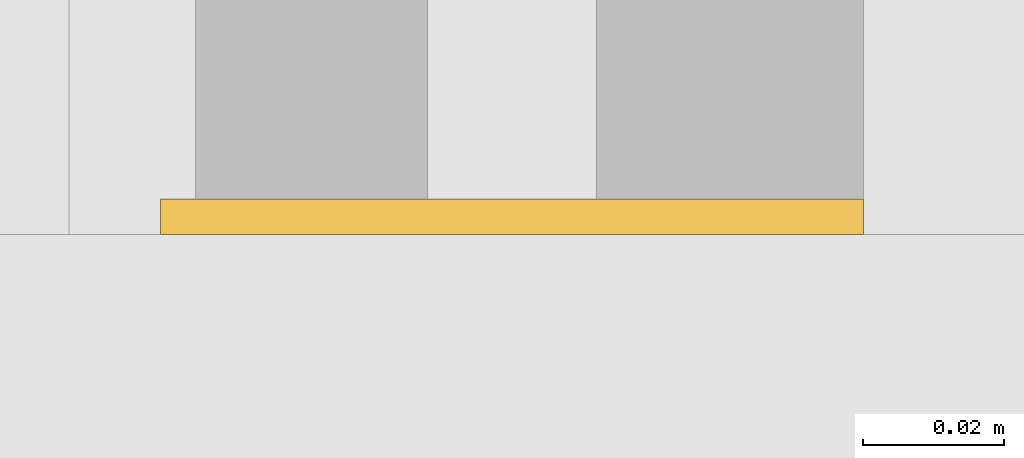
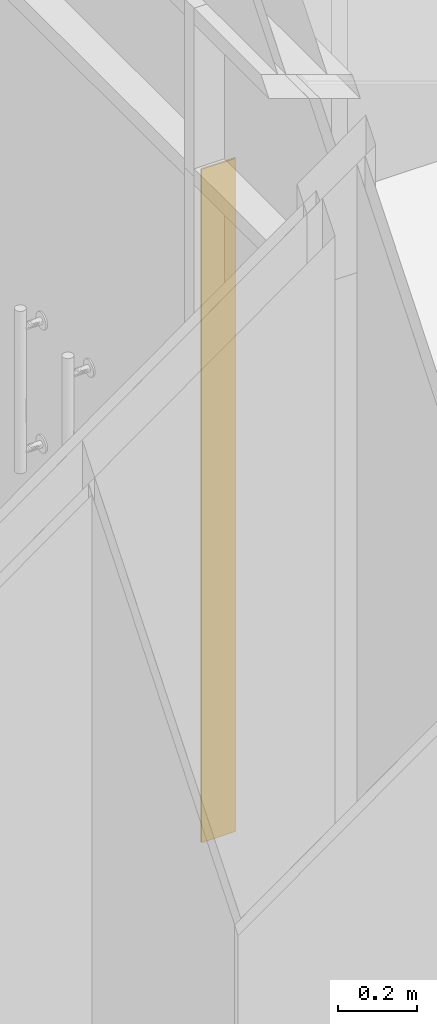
# One storey, part 67 of 76: 1 curtain wall, 1 opening, 1 element without a shape of its own.
"""IFC2X3 building model written with IfcOpenShell, lengths in millimetres."""

import ifcopenshell
import ifcopenshell.guid

model = None  # the IFC model being written
_history = None  # IfcOwnerHistory: only IFC2X3 demands one
_inside = {}  # id of a spatial element -> (the spatial element, [elements in it])
_under = {}  # id of a project, library or spatial element -> (it, [spatial elements below it])
_declared = {}  # id of a project -> (the project, [libraries it declares])
_typed = {}  # id of a type object -> (the type object, [elements of that type])
_made_of = {}  # id of a material, layer set ... -> (it, [elements and type objects made of it])


def new_model(schema):
    """Start an empty IFC model of exactly this schema.

    Asked for "IFC4X3", IfcOpenShell would pick the latest addendum, in which some entities
    have other attributes; the version numbers below select the first issue.
    IFC2X3 requires an IfcOwnerHistory on every rooted entity: one is made here for all.
    """
    global model, _history
    if schema == "IFC4X3":
        model = ifcopenshell.file(schema_version=(4, 3, 0, 0))
    else:
        model = ifcopenshell.file(schema=schema)
    _inside.clear()
    _under.clear()
    _declared.clear()
    _typed.clear()
    _made_of.clear()
    _history = None
    if model.schema == "IFC2X3":
        org = make("IfcOrganization", Name="unknown")
        user = make(
            "IfcPersonAndOrganization",
            ThePerson=make("IfcPerson", FamilyName="unknown"),
            TheOrganization=org,
        )
        app = make(
            "IfcApplication",
            ApplicationDeveloper=org,
            Version="unknown",
            ApplicationFullName="unknown",
            ApplicationIdentifier="unknown",
        )
        _history = make(
            "IfcOwnerHistory",
            OwningUser=user,
            OwningApplication=app,
            ChangeAction="ADDED",
            CreationDate=0,
        )
    return model


def make(cls, **values):
    """One entity of the class cls with the attributes given. An attribute that is None is left unset."""
    return model.create_entity(
        cls, **{name: value for name, value in values.items() if value is not None}
    )


def entity(cls, *values):
    """Any entity or typed value of the class cls, its attributes in the order of the schema. None: left unset."""
    e = model.create_entity(cls)
    for i, value in enumerate(values):
        if value is not None:
            e[i] = value
    return e


def rooted(cls, **values):
    """An entity with a GlobalId (a new one), such as an element, a storey or a relation."""
    return make(cls, GlobalId=ifcopenshell.guid.new(), OwnerHistory=_history, **values)


def si_unit(unit_type, name, prefix=None):
    """IfcSIUnit, for example si_unit("LENGTHUNIT", "METRE", prefix="MILLI")."""
    return make("IfcSIUnit", UnitType=unit_type, Prefix=prefix, Name=name)


def converted_unit(unit_type, name, factor, base, dimensions=None, offset=None):
    """IfcConversionBasedUnit, such as the inch: factor (a typed value) times the base unit."""
    return make(
        "IfcConversionBasedUnit"
        if offset is None
        else "IfcConversionBasedUnitWithOffset",
        ConversionOffset=offset,
        Dimensions=None
        if dimensions is None
        else entity("IfcDimensionalExponents", *dimensions),
        UnitType=unit_type,
        Name=name,
        ConversionFactor=make(
            "IfcMeasureWithUnit", ValueComponent=factor, UnitComponent=base
        ),
    )


def derived_unit(unit_type, elements):
    """IfcDerivedUnit: a product of units, each with its exponent."""
    return make(
        "IfcDerivedUnit",
        Elements=[
            make("IfcDerivedUnitElement", Unit=unit, Exponent=power)
            for unit, power in elements
        ],
        UnitType=unit_type,
    )


def assignment(units):
    """IfcUnitAssignment: the units of a project."""
    return None if units is None else make("IfcUnitAssignment", Units=units)


def point(xyz):
    """IfcCartesianPoint."""
    return None if xyz is None else make("IfcCartesianPoint", Coordinates=xyz)


def direction(xyz):
    """IfcDirection."""
    return None if xyz is None else make("IfcDirection", DirectionRatios=xyz)


def frame(location, z_axis=None, x_axis=None):
    """IfcAxis2Placement3D, a coordinate frame: its origin and axes. An axis left out is left unset."""
    return make(
        "IfcAxis2Placement3D",
        Location=point(location),
        Axis=direction(z_axis),
        RefDirection=direction(x_axis),
    )


def frame_2d(location, x_axis=None):
    """IfcAxis2Placement2D, a coordinate frame in the plane: its origin and x axis."""
    return make(
        "IfcAxis2Placement2D", Location=point(location), RefDirection=direction(x_axis)
    )


def origin():
    """The frame at (0, 0, 0) with its axes left unset."""
    return frame((0.0, 0.0, 0.0))


def place(relative_to, where):
    """IfcLocalPlacement: puts the frame where relative to a parent placement (None: the world)."""
    return make(
        "IfcLocalPlacement", PlacementRelTo=relative_to, RelativePlacement=where
    )


def context(
    kind, dimensions, precision=None, world=None, true_north=None, identifier=None
):
    """IfcGeometricRepresentationContext, for example the 3D "Model" context."""
    return make(
        "IfcGeometricRepresentationContext",
        ContextIdentifier=identifier,
        ContextType=kind,
        CoordinateSpaceDimension=dimensions,
        Precision=precision,
        WorldCoordinateSystem=world,
        TrueNorth=true_north,
    )


def subcontext(parent, identifier, kind, view, scale=None):
    """IfcGeometricRepresentationSubContext, for example "Body" below "Model"."""
    return make(
        "IfcGeometricRepresentationSubContext",
        ContextIdentifier=identifier,
        ContextType=kind,
        ParentContext=parent,
        TargetScale=scale,
        TargetView=view,
    )


def project(units=None, contexts=None):
    """IfcProject with its units and contexts."""
    return rooted(
        "IfcProject",
        Name="project",
        RepresentationContexts=contexts,
        UnitsInContext=assignment(units),
    )


def spatial(cls, under=None, at=None, **own):
    """A site, building, storey or space (cls), placed at a placement, below another one or the project."""
    s = rooted(cls, ObjectPlacement=at, **own)
    if under is not None:
        _under.setdefault(under.id(), (under, []))[1].append(s)
    return s


def profile(cls, at=None, kind="AREA", **sizes):
    """A parametric profile (cls). Its sizes go by their IFC names, for example OverallWidth=200.0."""
    return make(cls, ProfileType=kind, Position=at, **sizes)


def rectangle(**sizes):
    """IfcRectangleProfileDef."""
    return profile("IfcRectangleProfileDef", **sizes)


def extrude(swept, where, along, depth):
    """IfcExtrudedAreaSolid: the profile swept, set in the frame where, extruded along a direction by depth."""
    return make(
        "IfcExtrudedAreaSolid",
        SweptArea=swept,
        Position=where,
        ExtrudedDirection=direction(along),
        Depth=depth,
    )


def shape(context_of_items, identifier, shape_type, items):
    """IfcShapeRepresentation: the items that make up one representation, for example the "Body"."""
    return make(
        "IfcShapeRepresentation",
        ContextOfItems=context_of_items,
        RepresentationIdentifier=identifier,
        RepresentationType=shape_type,
        Items=items,
    )


def material(Name=None, Category=None):
    """IfcMaterial."""
    return make("IfcMaterial", Name=Name, Category=Category)


def layer(
    of_material, thickness, ventilated=None, Name=None, Category=None, Priority=None
):
    """IfcMaterialLayer: one layer of a wall or slab, of a material (None: an air gap)."""
    return make(
        "IfcMaterialLayer",
        Material=of_material,
        LayerThickness=thickness,
        IsVentilated=ventilated,
        Name=Name,
        Category=Category,
        Priority=Priority,
    )


def layer_set(layers, Name=None):
    """IfcMaterialLayerSet."""
    return make("IfcMaterialLayerSet", MaterialLayers=layers, LayerSetName=Name)


def layer_usage(for_layer_set, set_direction, sense, offset, extent=None):
    """IfcMaterialLayerSetUsage: how a layer set lies in its element."""
    return make(
        "IfcMaterialLayerSetUsage",
        ForLayerSet=for_layer_set,
        LayerSetDirection=set_direction,
        DirectionSense=sense,
        OffsetFromReferenceLine=offset,
        ReferenceExtent=extent,
    )


def made_of(thing, what):
    """Note that an element or type object is made of a material, layer set ...; save() writes the relation."""
    if what is not None:
        _made_of.setdefault(what.id(), (what, []))[1].append(thing)
    return thing


def type_object(cls, material=None, **own):
    """A type object (cls), such as IfcWallType, which elements share."""
    return made_of(rooted(cls, **own), material)


def element(
    cls,
    number,
    at=None,
    inside=None,
    cuts=None,
    type_object=None,
    material=None,
    context=None,
    identifier="Body",
    shape_type=None,
    held_by="IfcProductDefinitionShape",
    body=None,
    shapes=None,
    **own,
):
    """One element of the class cls, such as IfcWall. Its Tag is "e" and its number.

    at: its placement. inside: the storey or other place that contains it. cuts: it is an
    opening in that element (IfcRelVoidsElement). A single representation is given by context,
    identifier, shape_type and body (its items); several are given by shapes. held_by: the class
    of the entity that holds the representations. save() writes the other relations.
    """
    e = rooted(cls, Tag="e%d" % number, ObjectPlacement=at, **own)
    if body is not None:
        shapes = [shape(context, identifier, shape_type, body)]
    if shapes is not None:
        e.Representation = make(held_by, Representations=shapes)
    if inside is not None:
        _inside.setdefault(inside.id(), (inside, []))[1].append(e)
    if cuts is not None:
        rooted(
            "IfcRelVoidsElement", RelatingBuildingElement=cuts, RelatedOpeningElement=e
        )
    if type_object is not None:
        _typed.setdefault(type_object.id(), (type_object, []))[1].append(e)
    return made_of(e, material)


def aggregate(whole, parts):
    """IfcRelAggregates: a whole, such as a stair, and the parts it consists of."""
    return rooted("IfcRelAggregates", RelatingObject=whole, RelatedObjects=parts)


def save(model, path):
    """Write the relations noted so far, then the file.

    IfcRelAggregates (storeys below a building ...), IfcRelContainedInSpatialStructure (elements
    in a storey), IfcRelDefinesByType, IfcRelAssociatesMaterial and IfcRelDeclares: one each for
    every whole, place, type object, material and project.
    """
    for whole, parts in _under.values():
        aggregate(whole, parts)
    for where, things in _inside.values():
        rooted(
            "IfcRelContainedInSpatialStructure",
            RelatedElements=things,
            RelatingStructure=where,
        )
    for kind, things in _typed.values():
        rooted("IfcRelDefinesByType", RelatedObjects=things, RelatingType=kind)
    for what, things in _made_of.values():
        rooted("IfcRelAssociatesMaterial", RelatedObjects=things, RelatingMaterial=what)
    for by, libraries in _declared.values():
        rooted("IfcRelDeclares", RelatingContext=by, RelatedDefinitions=libraries)
    model.write(path)


model = new_model("IFC2X3")

# Units and contexts
model_context = context("Model", 3, precision=0.01, world=origin(), true_north=direction((6.123031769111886e-17, 1.0)))
body_context = subcontext(model_context, "Body", "Model", "MODEL_VIEW")
ifc_project = project(units=[si_unit("LENGTHUNIT", "METRE", prefix="MILLI"), si_unit("AREAUNIT", "SQUARE_METRE"), si_unit("VOLUMEUNIT", "CUBIC_METRE"), converted_unit("PLANEANGLEUNIT", "DEGREE", entity("IfcRatioMeasure", 0.017453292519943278), si_unit("PLANEANGLEUNIT", "RADIAN"), dimensions=[0, 0, 0, 0, 0, 0, 0]), si_unit("MASSUNIT", "GRAM", prefix="KILO"), derived_unit("MASSDENSITYUNIT", [(si_unit("MASSUNIT", "GRAM", prefix="KILO"), 1), (si_unit("LENGTHUNIT", "METRE"), -3)]), derived_unit("MOMENTOFINERTIAUNIT", [(si_unit("LENGTHUNIT", "METRE"), 4)]), si_unit("TIMEUNIT", "SECOND"), si_unit("FREQUENCYUNIT", "HERTZ"), si_unit("THERMODYNAMICTEMPERATUREUNIT", "DEGREE_CELSIUS"), derived_unit("THERMALTRANSMITTANCEUNIT", [(si_unit("MASSUNIT", "GRAM", prefix="KILO"), 1), (si_unit("THERMODYNAMICTEMPERATUREUNIT", "KELVIN"), -1), (si_unit("TIMEUNIT", "SECOND"), -3)]), derived_unit("VOLUMETRICFLOWRATEUNIT", [(si_unit("LENGTHUNIT", "METRE"), 3), (si_unit("TIMEUNIT", "SECOND"), -1)]), derived_unit("MASSFLOWRATEUNIT", [(si_unit("MASSUNIT", "GRAM", prefix="KILO"), 1), (si_unit("TIMEUNIT", "SECOND"), -1)]), derived_unit("ROTATIONALFREQUENCYUNIT", [(si_unit("TIMEUNIT", "SECOND"), -1)]), si_unit("ELECTRICCURRENTUNIT", "AMPERE"), si_unit("ELECTRICVOLTAGEUNIT", "VOLT"), si_unit("POWERUNIT", "WATT"), si_unit("FORCEUNIT", "NEWTON", prefix="KILO"), si_unit("ILLUMINANCEUNIT", "LUX"), si_unit("LUMINOUSFLUXUNIT", "LUMEN"), si_unit("LUMINOUSINTENSITYUNIT", "CANDELA"), derived_unit("USERDEFINED", [(si_unit("MASSUNIT", "GRAM", prefix="KILO"), -1), (si_unit("LENGTHUNIT", "METRE"), -2), (si_unit("TIMEUNIT", "SECOND"), 3), (si_unit("LUMINOUSFLUXUNIT", "LUMEN"), 1)]), derived_unit("SOUNDPOWERUNIT", [(si_unit("MASSUNIT", "GRAM", prefix="KILO"), 1), (si_unit("LENGTHUNIT", "METRE"), 2), (si_unit("TIMEUNIT", "SECOND"), -3)]), derived_unit("SOUNDPRESSUREUNIT", [(si_unit("MASSUNIT", "GRAM", prefix="KILO"), 1), (si_unit("LENGTHUNIT", "METRE"), -1), (si_unit("TIMEUNIT", "SECOND"), -2)]), derived_unit("LINEARVELOCITYUNIT", [(si_unit("LENGTHUNIT", "METRE"), 1), (si_unit("TIMEUNIT", "SECOND"), -1)]), si_unit("PRESSUREUNIT", "PASCAL"), derived_unit("USERDEFINED", [(si_unit("LENGTHUNIT", "METRE"), -2), (si_unit("MASSUNIT", "GRAM", prefix="KILO"), 1), (si_unit("TIMEUNIT", "SECOND"), -2)]), derived_unit("LINEARFORCEUNIT", [(si_unit("MASSUNIT", "GRAM", prefix="KILO"), 1), (si_unit("LENGTHUNIT", "METRE"), 1), (si_unit("TIMEUNIT", "SECOND"), -2), (si_unit("LENGTHUNIT", "METRE"), -1)]), derived_unit("PLANARFORCEUNIT", [(si_unit("MASSUNIT", "GRAM", prefix="KILO"), 1), (si_unit("LENGTHUNIT", "METRE"), 1), (si_unit("TIMEUNIT", "SECOND"), -2), (si_unit("LENGTHUNIT", "METRE"), -2)])], contexts=[model_context])

# Site, building, storey
site_placement = place(None, frame((-14167.972527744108, -657.2125860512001, 0.0)))
site = spatial("IfcSite", under=ifc_project, at=site_placement, Name="Default", CompositionType="ELEMENT")
building_placement = place(site_placement, origin())
building = spatial("IfcBuilding", under=site, at=building_placement, Name="Sample Building", CompositionType="ELEMENT")
storey_placement = place(building_placement, frame((0.0, 0.0, 9300.0)))
storey = spatial("IfcBuildingStorey", under=building, at=storey_placement, Name="지상 3층", CompositionType="ELEMENT", Elevation=9300.000000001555)

# Curtain walls, opening
curtain_wall_type_1 = type_object("IfcCurtainWallType", Name="커튼월:CW112-스테인리스 스틸 커튼월", PredefinedType="NOTDEFINED")
curtain_wall_1_placement = place(storey_placement, frame((0.0, 0.0, -9300.0)))
curtain_wall_1 = element("IfcCurtainWall", 1, at=curtain_wall_1_placement, inside=storey, type_object=curtain_wall_type_1, Name="커튼월:CW112-스테인리스 스틸 커튼월", ObjectType="커튼월:CW112-스테인리스 스틸 커튼월")
ifc_material = material(Name="KBIMS-콘크리트")
ifc_layer = layer(ifc_material, 100.0)
ifc_layer_set = layer_set([ifc_layer], Name="커튼월:CW112-스테인리스 스틸 커튼월")
ifc_layer_usage = layer_usage(ifc_layer_set, "AXIS2", "NEGATIVE", 50.0)
curtain_wall_type_2 = type_object("IfcCurtainWallType", Name="기본 벽:WA111-철근콘크리트구조 벽 100mm", PredefinedType="NOTDEFINED", material=ifc_layer_set)
curtain_wall_2_placement = place(storey_placement, frame((27522.955105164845, 28382.21227524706, 80.0), z_axis=(0.0, 0.0, 1.0), x_axis=(0.0, -1.0, 0.0)))
curtain_wall_2 = element("IfcCurtainWall", 2, at=curtain_wall_2_placement, type_object=curtain_wall_type_2, material=ifc_layer_usage, Name="기본 벽:WA111-철근콘크리트구조 벽 100mm", ObjectType="기본 벽:WA111-철근콘크리트구조 벽 100mm", context=body_context, shape_type="SweptSolid", body=[
    extrude(rectangle(XDim=4.999689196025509, YDim=99.99999999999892, at=frame_2d((2.1658230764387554e-12, 2.1671553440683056e-12), x_axis=(1.0, 0.0))), frame((2.49984459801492, 0.0, 0.0), z_axis=(0.0, 0.0, 1.0), x_axis=(-1.0, 0.0, 0.0)), (0.0, 0.0, 1.0), 2075.0000000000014),
])
opening_placement = place(curtain_wall_2_placement, frame((-1500.0, -50.0, -25.0)))
element("IfcOpeningElement", 3, at=opening_placement, cuts=curtain_wall_2, Name="DR121-쌍여닫이문(철재, 일반, 양개):DR121-쌍여닫이문(유리, 일반, 양개) 1500x2100mm:1", ObjectType="Opening", context=body_context, shape_type="SweptSolid", body=[
    extrude(rectangle(XDim=2099.9999999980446, YDim=1500.0, at=frame_2d((1049.9999999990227, 750.0), x_axis=(1.0, 0.0))), frame((0.0, 0.0, 0.0), z_axis=(0.0, 1.0, 0.0), x_axis=(0.0, 0.0, 1.0)), (0.0, 0.0, 1.0), 100.0),
])
aggregate(curtain_wall_1, [curtain_wall_2])

save(model, "model.ifc")
